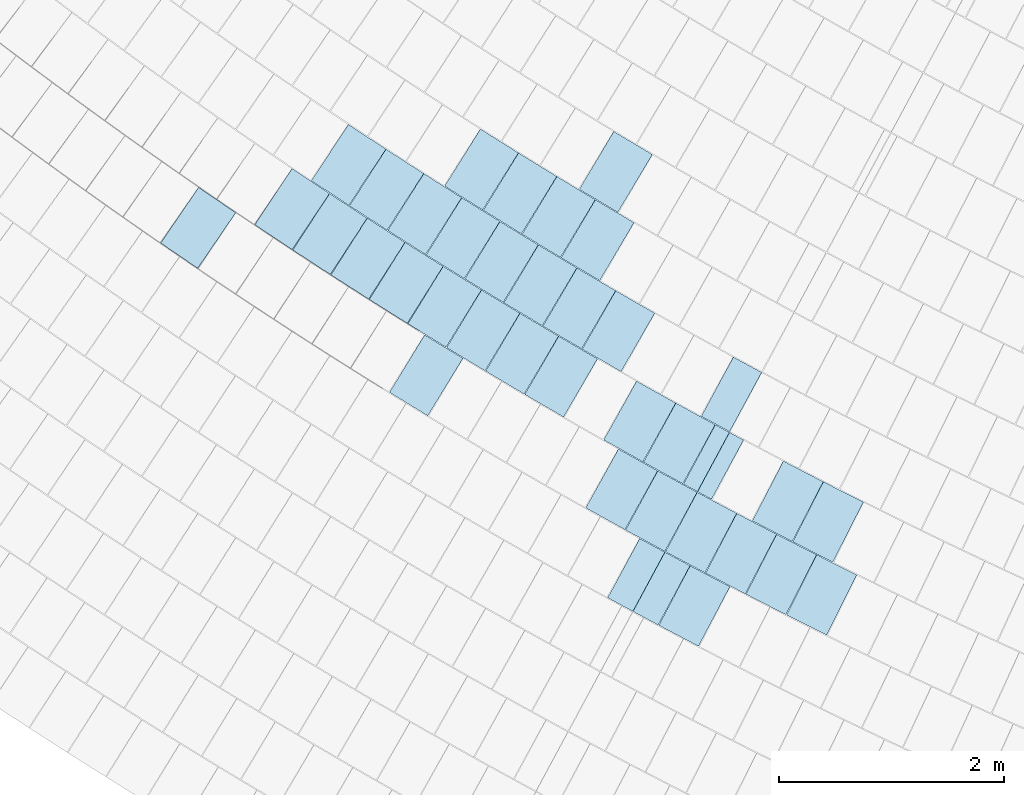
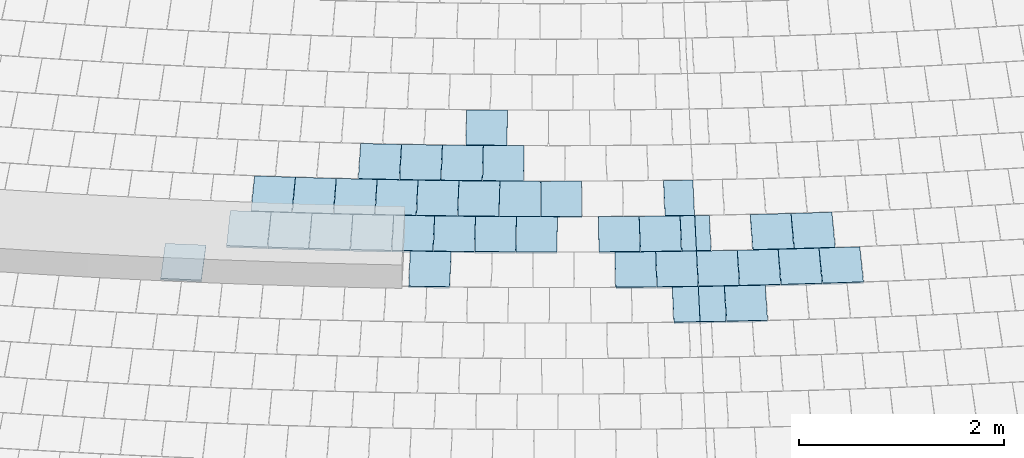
# One storey, part 105 of 438: 39 slabs.
"""IFC2X3 building model written with IfcOpenShell, lengths in millimetres."""

from ifc_helpers import new_model, entity, si_unit, converted_unit, derived_unit, direction, frame, origin, place, context, subcontext, project, spatial, polyline, outline, extrude, material, layer, layer_set, layer_usage, type_object, element, save


model = new_model("IFC2X3")

# Units and contexts
model_context = context("Model", 3, precision=0.01, world=origin(), true_north=direction((6.123031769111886e-17, 1.0)))
body_context = subcontext(model_context, "Body", "Model", "MODEL_VIEW")
ifc_project = project(units=[si_unit("LENGTHUNIT", "METRE", prefix="MILLI"), si_unit("AREAUNIT", "SQUARE_METRE"), si_unit("VOLUMEUNIT", "CUBIC_METRE"), converted_unit("PLANEANGLEUNIT", "DEGREE", entity("IfcRatioMeasure", 0.017453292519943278), si_unit("PLANEANGLEUNIT", "RADIAN"), dimensions=[0, 0, 0, 0, 0, 0, 0]), si_unit("MASSUNIT", "GRAM", prefix="KILO"), derived_unit("MASSDENSITYUNIT", [(si_unit("MASSUNIT", "GRAM", prefix="KILO"), 1), (si_unit("LENGTHUNIT", "METRE"), -3)]), derived_unit("MOMENTOFINERTIAUNIT", [(si_unit("LENGTHUNIT", "METRE"), 4)]), si_unit("TIMEUNIT", "SECOND"), si_unit("FREQUENCYUNIT", "HERTZ"), si_unit("THERMODYNAMICTEMPERATUREUNIT", "DEGREE_CELSIUS"), derived_unit("THERMALTRANSMITTANCEUNIT", [(si_unit("MASSUNIT", "GRAM", prefix="KILO"), 1), (si_unit("THERMODYNAMICTEMPERATUREUNIT", "KELVIN"), -1), (si_unit("TIMEUNIT", "SECOND"), -3)]), derived_unit("THERMALCONDUCTANCEUNIT", [(si_unit("MASSUNIT", "GRAM", prefix="KILO"), 1), (si_unit("LENGTHUNIT", "METRE"), 1), (si_unit("THERMODYNAMICTEMPERATUREUNIT", "KELVIN"), -1), (si_unit("TIMEUNIT", "SECOND"), -3)]), derived_unit("VOLUMETRICFLOWRATEUNIT", [(si_unit("LENGTHUNIT", "METRE"), 3), (si_unit("TIMEUNIT", "SECOND"), -1)]), derived_unit("MASSFLOWRATEUNIT", [(si_unit("MASSUNIT", "GRAM", prefix="KILO"), 1), (si_unit("TIMEUNIT", "SECOND"), -1)]), derived_unit("ROTATIONALFREQUENCYUNIT", [(si_unit("TIMEUNIT", "SECOND"), -1)]), si_unit("ELECTRICCURRENTUNIT", "AMPERE"), si_unit("ELECTRICVOLTAGEUNIT", "VOLT"), si_unit("POWERUNIT", "WATT"), converted_unit("FORCEUNIT", "KIP", entity("IfcRatioMeasure", 2.088543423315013e-05), si_unit("FORCEUNIT", "NEWTON"), dimensions=[1, 1, -2, 0, 0, 0, 0]), si_unit("ILLUMINANCEUNIT", "LUX"), si_unit("LUMINOUSFLUXUNIT", "LUMEN"), si_unit("LUMINOUSINTENSITYUNIT", "CANDELA"), derived_unit("USERDEFINED", [(si_unit("MASSUNIT", "GRAM", prefix="KILO"), -1), (si_unit("LENGTHUNIT", "METRE"), -2), (si_unit("TIMEUNIT", "SECOND"), 3), (si_unit("LUMINOUSFLUXUNIT", "LUMEN"), 1)]), derived_unit("USERDEFINED", [(si_unit("MASSUNIT", "GRAM", prefix="KILO"), 1), (si_unit("LENGTHUNIT", "METRE"), 3), (si_unit("TIMEUNIT", "SECOND"), -3), (si_unit("ELECTRICCURRENTUNIT", "AMPERE"), -2)]), derived_unit("USERDEFINED", [(si_unit("LENGTHUNIT", "METRE"), 2), (si_unit("TIMEUNIT", "SECOND"), -2)]), derived_unit("SOUNDPOWERUNIT", [(si_unit("MASSUNIT", "GRAM", prefix="KILO"), 1), (si_unit("LENGTHUNIT", "METRE"), 2), (si_unit("TIMEUNIT", "SECOND"), -3)]), derived_unit("SOUNDPRESSUREUNIT", [(si_unit("MASSUNIT", "GRAM", prefix="KILO"), 1), (si_unit("LENGTHUNIT", "METRE"), -1), (si_unit("TIMEUNIT", "SECOND"), -2)]), derived_unit("LINEARVELOCITYUNIT", [(si_unit("LENGTHUNIT", "METRE"), 1), (si_unit("TIMEUNIT", "SECOND"), -1)]), si_unit("PRESSUREUNIT", "PASCAL"), derived_unit("USERDEFINED", [(si_unit("LENGTHUNIT", "METRE"), -2), (si_unit("MASSUNIT", "GRAM", prefix="KILO"), 1), (si_unit("TIMEUNIT", "SECOND"), -2)]), derived_unit("LINEARFORCEUNIT", [(si_unit("MASSUNIT", "GRAM", prefix="KILO"), 1), (si_unit("LENGTHUNIT", "METRE"), 1), (si_unit("TIMEUNIT", "SECOND"), -2), (si_unit("LENGTHUNIT", "METRE"), -1)]), derived_unit("PLANARFORCEUNIT", [(si_unit("MASSUNIT", "GRAM", prefix="KILO"), 1), (si_unit("LENGTHUNIT", "METRE"), 1), (si_unit("TIMEUNIT", "SECOND"), -2), (si_unit("LENGTHUNIT", "METRE"), -2)]), derived_unit("SPECIFICHEATCAPACITYUNIT", [(si_unit("LENGTHUNIT", "METRE"), 2), (si_unit("TIMEUNIT", "SECOND"), -2), (si_unit("THERMODYNAMICTEMPERATUREUNIT", "KELVIN"), -1)]), derived_unit("VAPORPERMEABILITYUNIT", [(si_unit("TIMEUNIT", "SECOND"), 1), (si_unit("LENGTHUNIT", "METRE"), -1)]), derived_unit("DYNAMICVISCOSITYUNIT", [(si_unit("MASSUNIT", "GRAM", prefix="KILO"), 1), (si_unit("LENGTHUNIT", "METRE"), -1), (si_unit("TIMEUNIT", "SECOND"), -1)]), derived_unit("THERMALEXPANSIONCOEFFICIENTUNIT", [(si_unit("THERMODYNAMICTEMPERATUREUNIT", "KELVIN"), -1)])], contexts=[model_context])

# Site, building, storey
site_placement = place(None, frame((0.0, 0.0, 0.0), z_axis=(0.0, 0.0, 1.0), x_axis=(0.8191520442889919, 0.5735764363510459, 0.0)))
site = spatial("IfcSite", under=ifc_project, at=site_placement, Name="Default", CompositionType="ELEMENT")
building_placement = place(site_placement, origin())
building = spatial("IfcBuilding", under=site, at=building_placement, CompositionType="ELEMENT")
storey_placement = place(building_placement, origin())
storey = spatial("IfcBuildingStorey", under=building, at=storey_placement, Name="PLAN", CompositionType="ELEMENT", Elevation=0.0)

# Slabs
ifc_material = material(Name="Paint-01")
ifc_layer = layer(ifc_material, 20.00000000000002)
ifc_layer_set = layer_set([ifc_layer], Name="Floor:Slab-179:1000")
ifc_layer_usage = layer_usage(ifc_layer_set, "AXIS3", "POSITIVE", 0.0)
slab_type = type_object("IfcSlabType", Name="Floor:Slab-179:1000", PredefinedType="FLOOR", material=ifc_layer_set)
slab_1_placement = place(storey_placement, origin())
element("IfcSlab", 1, at=slab_1_placement, inside=storey, type_object=slab_type, material=ifc_layer_usage, Name="Floor:Slab-179:1000", ObjectType="Floor:Slab-179:1000", PredefinedType="FLOOR", context=body_context, shape_type="SweptSolid", body=[
    extrude(outline(polyline([(-200.0000013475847, -299.9999986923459), (200.00000453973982, -299.9999986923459), (200.00000134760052, 299.999998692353), (-200.0000045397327, 299.99999869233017), (-200.0000013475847, -299.9999986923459)])), frame((-81823.8987164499, -86573.97378062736, 520.0), z_axis=(0.0, 0.0, -1.0), x_axis=(0.4094609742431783, -0.9123276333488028, 0.0)), (0.0, 0.0, 1.0), 19.999999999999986),
])
slab_2_placement = place(storey_placement, origin())
element("IfcSlab", 2, at=slab_2_placement, inside=storey, type_object=slab_type, material=ifc_layer_usage, Name="Floor:Slab-179:1000", ObjectType="Floor:Slab-179:1000", PredefinedType="FLOOR", context=body_context, shape_type="SweptSolid", body=[
    extrude(outline(polyline([(-200.00000134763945, -299.9999986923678), (200.00000453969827, -299.9999986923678), (200.0000013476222, 299.99999869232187), (-200.00000453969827, 299.9999986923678), (-200.00000134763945, -299.9999986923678)])), frame((-82305.27612764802, -86978.17943150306, 520.0), z_axis=(0.0, 0.0, -1.0), x_axis=(0.4128557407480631, -0.9107964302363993, 0.0)), (0.0, 0.0, 1.0), 19.999999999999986),
])
slab_3_placement = place(storey_placement, origin())
element("IfcSlab", 3, at=slab_3_placement, inside=storey, type_object=slab_type, material=ifc_layer_usage, Name="Floor:Slab-179:1000", ObjectType="Floor:Slab-179:1000", PredefinedType="FLOOR", context=body_context, shape_type="SweptSolid", body=[
    extrude(outline(polyline([(-200.00000134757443, -299.9999986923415), (200.00000453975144, -299.9999986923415), (200.00000134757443, 299.9999986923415), (-200.0000045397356, 299.99999869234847), (-200.00000134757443, -299.9999986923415)])), frame((-82469.89561469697, -86610.75528619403, 520.0), z_axis=(0.0, 0.0, -1.0), x_axis=(0.40488472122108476, -0.9143677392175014, 0.0)), (0.0, 0.0, 1.0), 20.000000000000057),
])
slab_4_placement = place(storey_placement, origin())
element("IfcSlab", 4, at=slab_4_placement, inside=storey, type_object=slab_type, material=ifc_layer_usage, Name="Floor:Slab-179:1000", ObjectType="Floor:Slab-179:1000", PredefinedType="FLOOR", context=body_context, shape_type="SweptSolid", body=[
    extrude(outline(polyline([(-200.0000013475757, -299.9999986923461), (200.00000453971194, -299.9999986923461), (200.0000013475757, 299.9999986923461), (-200.00000453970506, 299.99999869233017), (-200.0000013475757, -299.9999986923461)])), frame((-82631.29958852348, -86241.907302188, 520.0), z_axis=(0.0, 0.0, -1.0), x_axis=(0.3968828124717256, -0.9178692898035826, 0.0)), (0.0, 0.0, 1.0), 20.000000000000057),
])
slab_5_placement = place(storey_placement, origin())
element("IfcSlab", 5, at=slab_5_placement, inside=storey, type_object=slab_type, material=ifc_layer_usage, Name="Floor:Slab-179:1000", ObjectType="Floor:Slab-179:1000", PredefinedType="FLOOR", context=body_context, shape_type="SweptSolid", body=[
    extrude(outline(polyline([(-200.0000013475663, -299.9999986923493), (200.00000453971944, -299.9999986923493), (200.0000013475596, 299.9999986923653), (-200.00000453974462, 299.9999986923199), (-200.0000013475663, -299.9999986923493)])), frame((-82789.47573539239, -85871.66361941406, 520.0), z_axis=(0.0, 0.0, -1.0), x_axis=(0.38885062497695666, -0.9213008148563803, 0.0)), (0.0, 0.0, 1.0), 20.000000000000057),
])
slab_6_placement = place(storey_placement, origin())
element("IfcSlab", 6, at=slab_6_placement, inside=storey, type_object=slab_type, material=ifc_layer_usage, Name="Floor:Slab-179:1000", ObjectType="Floor:Slab-179:1000", PredefinedType="FLOOR", context=body_context, shape_type="SweptSolid", body=[
    extrude(outline(polyline([(-200.00000134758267, -299.99999869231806), (200.0000045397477, -299.999998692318), (200.0000013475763, 299.99999869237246), (-200.00000453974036, 299.9999986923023), (-200.00000134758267, -299.99999869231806)])), frame((-82616.98485520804, -87747.44144949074, 520.0), z_axis=(0.0, 0.0, -1.0), x_axis=(0.4239796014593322, -0.9056717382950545, 0.0)), (0.0, 0.0, 1.0), 20.000000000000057),
])
slab_7_placement = place(storey_placement, origin())
element("IfcSlab", 7, at=slab_7_placement, inside=storey, type_object=slab_type, material=ifc_layer_usage, Name="Floor:Slab-179:1000", ObjectType="Floor:Slab-179:1000", PredefinedType="FLOOR", context=body_context, shape_type="SweptSolid", body=[
    extrude(outline(polyline([(-200.00000134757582, -299.9999986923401), (200.00000453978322, -299.9999986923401), (200.00000134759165, 299.99999869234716), (-200.0000045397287, 299.9999986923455), (-200.00000134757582, -299.9999986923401)])), frame((-82952.05634936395, -87015.31738914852, 520.0), z_axis=(0.0, 0.0, -1.0), x_axis=(0.40830242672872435, -0.9128467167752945, 0.0)), (0.0, 0.0, 1.0), 20.000000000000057),
])
slab_8_placement = place(storey_placement, origin())
element("IfcSlab", 8, at=slab_8_placement, inside=storey, type_object=slab_type, material=ifc_layer_usage, Name="Floor:Slab-179:1000", ObjectType="Floor:Slab-179:1000", PredefinedType="FLOOR", context=body_context, shape_type="SweptSolid", body=[
    extrude(outline(polyline([(-200.00000134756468, -299.9999986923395), (200.0000045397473, -299.99999869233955), (200.00000134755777, 299.9999986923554), (-200.00000453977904, 299.9999986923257), (-200.00000134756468, -299.9999986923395)])), frame((-83114.84620249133, -86647.11620595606, 520.0), z_axis=(0.0, 0.0, -1.0), x_axis=(0.40041803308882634, -0.9163325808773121, 0.0)), (0.0, 0.0, 1.0), 20.000000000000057),
])
slab_9_placement = place(storey_placement, origin())
element("IfcSlab", 9, at=slab_9_placement, inside=storey, type_object=slab_type, material=ifc_layer_usage, Name="Floor:Slab-179:1000", ObjectType="Floor:Slab-179:1000", PredefinedType="FLOOR", context=body_context, shape_type="SweptSolid", body=[
    extrude(outline(polyline([(-200.00000134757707, -299.999998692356), (200.00000453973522, -299.999998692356), (200.00000134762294, 299.99999869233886), (-200.00000453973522, 299.999998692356), (-200.00000134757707, -299.999998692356)])), frame((-82786.09845588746, -87382.10155617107, 520.0), z_axis=(0.0, 0.0, -1.0), x_axis=(0.416156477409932, -0.9092930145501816, 0.0)), (0.0, 0.0, 1.0), 19.99999999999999),
])
slab_10_placement = place(storey_placement, origin())
element("IfcSlab", 10, at=slab_10_placement, inside=storey, type_object=slab_type, material=ifc_layer_usage, Name="Floor:Slab-179:1000", ObjectType="Floor:Slab-179:1000", PredefinedType="FLOOR", context=body_context, shape_type="SweptSolid", body=[
    extrude(outline(polyline([(-200.00000134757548, -299.999998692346), (200.0000045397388, -299.99999869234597), (200.0000013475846, 299.9999986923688), (-200.00000453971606, 299.9999986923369), (-200.00000134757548, -299.999998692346)])), frame((-83274.45591755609, -86277.52536943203, 520.0), z_axis=(0.0, 0.0, -1.0), x_axis=(0.39250388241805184, -0.91975034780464, 0.0)), (0.0, 0.0, 1.0), 19.999999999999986),
])
slab_11_placement = place(storey_placement, origin())
element("IfcSlab", 11, at=slab_11_placement, inside=storey, type_object=slab_type, material=ifc_layer_usage, Name="Floor:Slab-179:1000", ObjectType="Floor:Slab-179:1000", PredefinedType="FLOOR", context=body_context, shape_type="SweptSolid", body=[
    extrude(outline(polyline([(-200.00000134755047, -299.9999986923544), (200.0000045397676, -299.9999986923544), (200.00000134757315, 299.99999869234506), (-200.00000453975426, 299.9999986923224), (-200.00000134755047, -299.9999986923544)])), frame((-83430.87363317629, -85906.57234568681, 520.0), z_axis=(0.0, 0.0, -1.0), x_axis=(0.384560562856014, -0.9230997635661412, 0.0)), (0.0, 0.0, 1.0), 20.000000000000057),
])
slab_12_placement = place(storey_placement, origin())
element("IfcSlab", 12, at=slab_12_placement, inside=storey, type_object=slab_type, material=ifc_layer_usage, Name="Floor:Slab-179:1000", ObjectType="Floor:Slab-179:1000", PredefinedType="FLOOR", context=body_context, shape_type="SweptSolid", body=[
    extrude(outline(polyline([(-200.00000134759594, -299.9999986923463), (200.0000045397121, -299.9999986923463), (200.00000134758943, 299.99999869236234), (-200.00000453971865, 299.99999869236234), (-200.00000134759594, -299.9999986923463)])), frame((-83584.08772518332, -85534.28470206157, 520.0), z_axis=(0.0, 0.0, -1.0), x_axis=(0.37658866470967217, -0.926380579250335, 0.0)), (0.0, 0.0, 1.0), 19.999999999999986),
])
slab_13_placement = place(storey_placement, origin())
element("IfcSlab", 13, at=slab_13_placement, inside=storey, type_object=slab_type, material=ifc_layer_usage, Name="Floor:Slab-179:1000", ObjectType="Floor:Slab-179:1000", PredefinedType="FLOOR", context=body_context, shape_type="SweptSolid", body=[
    extrude(outline(polyline([(-200.0000013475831, -299.99999869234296), (200.00000453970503, -299.99999869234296), (200.0000013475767, 299.99999869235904), (-200.00000453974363, 299.9999986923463), (-200.0000013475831, -299.99999869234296)])), frame((-83734.08680748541, -85160.69010507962, 520.0), z_axis=(0.0, 0.0, -1.0), x_axis=(0.36858878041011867, -0.9295925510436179, 0.0)), (0.0, 0.0, 1.0), 20.000000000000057),
])
slab_14_placement = place(storey_placement, origin())
element("IfcSlab", 14, at=slab_14_placement, inside=storey, type_object=slab_type, material=ifc_layer_usage, Name="Floor:Slab-179:1000", ObjectType="Floor:Slab-179:1000", PredefinedType="FLOOR", context=body_context, shape_type="SweptSolid", body=[
    extrude(outline(polyline([(-300.0, -143.68801425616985), (299.99999792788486, -143.68801425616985), (300.0, 143.68801266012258), (-299.9999979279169, 143.68801585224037), (-300.0, -143.68801425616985)])), frame((-82116.02261911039, -88784.15879950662, 520.0), z_axis=(0.0, 0.0, -1.0), x_axis=(0.8944051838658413, 0.4472576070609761, 0.0)), (0.0, 0.0, 1.0), 20.000000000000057),
])
slab_15_placement = place(storey_placement, origin())
element("IfcSlab", 15, at=slab_15_placement, inside=storey, type_object=slab_type, material=ifc_layer_usage, Name="Floor:Slab-179:1000", ObjectType="Floor:Slab-179:1000", PredefinedType="FLOOR", context=body_context, shape_type="SweptSolid", body=[
    extrude(outline(polyline([(-200.0000013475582, -299.99999869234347), (200.00000453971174, -299.9999986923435), (200.0000013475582, 299.99999869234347), (-200.0000045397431, 299.99999869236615), (-200.0000013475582, -299.99999869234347)])), frame((-82250.94885660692, -89850.46805788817, 520.0), z_axis=(0.0, 0.0, -1.0), x_axis=(0.46301393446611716, -0.8863510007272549, 0.0)), (0.0, 0.0, 1.0), 19.999999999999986),
])
slab_16_placement = place(storey_placement, origin())
element("IfcSlab", 16, at=slab_16_placement, inside=storey, type_object=slab_type, material=ifc_layer_usage, Name="Floor:Slab-179:1000", ObjectType="Floor:Slab-179:1000", PredefinedType="FLOOR", context=body_context, shape_type="SweptSolid", body=[
    extrude(outline(polyline([(-200.00000134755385, -299.99999869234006), (200.00000453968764, -299.99999869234), (200.0000013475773, 299.99999869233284), (-200.00000453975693, 299.9999986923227), (-200.00000134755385, -299.99999869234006)])), frame((-82063.0464962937, -90206.47174805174, 520.0), z_axis=(0.0, 0.0, -1.0), x_axis=(0.4705396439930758, -0.8823788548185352, 0.0)), (0.0, 0.0, 1.0), 20.000000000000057),
])
slab_17_placement = place(storey_placement, origin())
element("IfcSlab", 17, at=slab_17_placement, inside=storey, type_object=slab_type, material=ifc_layer_usage, Name="Floor:Slab-179:1000", ObjectType="Floor:Slab-179:1000", PredefinedType="FLOOR", context=body_context, shape_type="SweptSolid", body=[
    extrude(outline(polyline([(-71.27713909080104, -299.9999986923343), (71.27714068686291, -299.9999986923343), (71.27713749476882, 299.9999986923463), (-71.277139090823, 299.9999986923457), (-71.27713909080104, -299.9999986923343)])), frame((-82559.98131484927, -89248.81976052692, 520.0), z_axis=(0.0, 0.0, -1.0), x_axis=(0.44786247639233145, -0.8941024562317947, 0.0)), (0.0, 0.0, 1.0), 20.000000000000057),
])
slab_18_placement = place(storey_placement, origin())
element("IfcSlab", 18, at=slab_18_placement, inside=storey, type_object=slab_type, material=ifc_layer_usage, Name="Floor:Slab-179:1000", ObjectType="Floor:Slab-179:1000", PredefinedType="FLOOR", context=body_context, shape_type="SweptSolid", body=[
    extrude(outline(polyline([(-200.0000013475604, -299.9999986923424), (200.00000453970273, -299.99999869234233), (200.00000134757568, 299.9999986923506), (-200.00000453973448, 299.9999986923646), (-200.0000013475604, -299.9999986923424)])), frame((-82482.14144738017, -90705.0157686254, 520.0), z_axis=(0.0, 0.0, -1.0), x_axis=(0.4750035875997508, -0.8799838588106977, 0.0)), (0.0, 0.0, 1.0), 19.999999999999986),
])
slab_19_placement = place(storey_placement, origin())
element("IfcSlab", 19, at=slab_19_placement, inside=storey, type_object=slab_type, material=ifc_layer_usage, Name="Floor:Slab-179:1000", ObjectType="Floor:Slab-179:1000", PredefinedType="FLOOR", context=body_context, shape_type="SweptSolid", body=[
    extrude(outline(polyline([(-200.0000013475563, -299.9999986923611), (200.00000453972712, -299.99999869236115), (200.00000134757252, 299.9999986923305), (-200.00000453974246, 299.999998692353), (-200.0000013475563, -299.9999986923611)])), frame((-82671.84880098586, -90350.00731582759, 520.0), z_axis=(0.0, 0.0, -1.0), x_axis=(0.46759368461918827, -0.883943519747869, 0.0)), (0.0, 0.0, 1.0), 19.999999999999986),
])
slab_20_placement = place(storey_placement, origin())
element("IfcSlab", 20, at=slab_20_placement, inside=storey, type_object=slab_type, material=ifc_layer_usage, Name="Floor:Slab-179:1000", ObjectType="Floor:Slab-179:1000", PredefinedType="FLOOR", context=body_context, shape_type="SweptSolid", body=[
    extrude(outline(polyline([(-200.00000134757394, -299.9999986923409), (200.00000453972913, -299.99999869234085), (200.0000013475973, 299.99999869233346), (-200.00000453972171, 299.9999986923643), (-200.00000134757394, -299.9999986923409)])), frame((-82858.56687417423, -89993.41757576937, 520.0), z_axis=(0.0, 0.0, -1.0), x_axis=(0.46015077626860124, -0.8878407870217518, 0.0)), (0.0, 0.0, 1.0), 20.000000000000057),
])
slab_21_placement = place(storey_placement, origin())
element("IfcSlab", 21, at=slab_21_placement, inside=storey, type_object=slab_type, material=ifc_layer_usage, Name="Floor:Slab-179:1000", ObjectType="Floor:Slab-179:1000", PredefinedType="FLOOR", context=body_context, shape_type="SweptSolid", body=[
    extrude(outline(polyline([(-199.5897597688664, -299.99999869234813), (199.58976136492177, -299.99999869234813), (199.58975817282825, 299.99999869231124), (-199.58975976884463, 299.9999986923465), (-199.5897597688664, -299.99999869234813)])), frame((-83042.09678035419, -89635.63752228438, 520.0), z_axis=(0.0, 0.0, -1.0), x_axis=(0.4526753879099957, -0.8916753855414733, 0.0)), (0.0, 0.0, 1.0), 19.99999999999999),
])
slab_22_placement = place(storey_placement, origin())
element("IfcSlab", 22, at=slab_22_placement, inside=storey, type_object=slab_type, material=ifc_layer_usage, Name="Floor:Slab-179:1000", ObjectType="Floor:Slab-179:1000", PredefinedType="FLOOR", context=body_context, shape_type="SweptSolid", body=[
    extrude(outline(polyline([(-200.00000134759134, -299.99999869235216), (200.00000453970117, -299.9999986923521), (200.0000013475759, 299.9999986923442), (-200.000004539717, 299.9999986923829), (-200.00000134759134, -299.99999869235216)])), frame((-83465.74174511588, -90136.16473052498, 520.0), z_axis=(0.0, 0.0, -1.0), x_axis=(0.4573548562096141, -0.8892842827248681, 0.0)), (0.0, 0.0, 1.0), 20.000000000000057),
])
slab_23_placement = place(storey_placement, origin())
element("IfcSlab", 23, at=slab_23_placement, inside=storey, type_object=slab_type, material=ifc_layer_usage, Name="Floor:Slab-179:1000", ObjectType="Floor:Slab-179:1000", PredefinedType="FLOOR", context=body_context, shape_type="SweptSolid", body=[
    extrude(outline(polyline([(-127.54038940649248, -299.9999986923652), (127.54039100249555, -299.9999986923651), (127.54038781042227, 299.9999986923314), (-127.54038940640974, 299.99999869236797), (-127.54038940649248, -299.9999986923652)])), frame((-83615.73008009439, -89842.19021162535, 520.0), z_axis=(0.0, 0.0, -1.0), x_axis=(0.4499615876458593, -0.8930479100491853, 0.0)), (0.0, 0.0, 1.0), 20.000000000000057),
])
slab_24_placement = place(storey_placement, origin())
element("IfcSlab", 24, at=slab_24_placement, inside=storey, type_object=slab_type, material=ifc_layer_usage, Name="Floor:Slab-179:1000", ObjectType="Floor:Slab-179:1000", PredefinedType="FLOOR", context=body_context, shape_type="SweptSolid", body=[
    extrude(outline(polyline([(-200.00000134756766, -299.9999986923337), (200.00000453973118, -299.9999986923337), (200.00000134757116, 299.99999869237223), (-200.00000453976, 299.99999869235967), (-200.00000134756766, -299.9999986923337)])), frame((-84371.10228969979, -85194.32461210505, 520.0), z_axis=(0.0, 0.0, -1.0), x_axis=(0.3645857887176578, -0.9311698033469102, 0.0)), (0.0, 0.0, 1.0), 20.000000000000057),
])
slab_25_placement = place(storey_placement, origin())
element("IfcSlab", 25, at=slab_25_placement, inside=storey, type_object=slab_type, material=ifc_layer_usage, Name="Floor:Slab-179:1000", ObjectType="Floor:Slab-179:1000", PredefinedType="FLOOR", context=body_context, shape_type="SweptSolid", body=[
    extrude(outline(polyline([(-200.000004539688, -299.99999869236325), (200.00000134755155, -299.99999869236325), (200.00000453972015, 299.99999869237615), (-200.0000013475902, 299.99999869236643), (-200.000004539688, -299.99999869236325)])), frame((-84222.74498556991, -85568.53850112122, 520.0), z_axis=(0.0, 0.0, -1.0), x_axis=(0.37249644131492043, -0.9280336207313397, 0.0)), (0.0, 0.0, 1.0), 20.000000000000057),
])
slab_26_placement = place(storey_placement, origin())
element("IfcSlab", 26, at=slab_26_placement, inside=storey, type_object=slab_type, material=ifc_layer_usage, Name="Floor:Slab-179:1000", ObjectType="Floor:Slab-179:1000", PredefinedType="FLOOR", context=body_context, shape_type="SweptSolid", body=[
    extrude(outline(polyline([(-200.00000453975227, -299.99999869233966), (200.00000134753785, -299.99999869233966), (200.00000453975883, 299.99999869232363), (-200.00000134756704, 299.9999986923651), (-200.00000453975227, -299.99999869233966)])), frame((-84071.20865035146, -85941.47638271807, 520.0), z_axis=(0.0, 0.0, -1.0), x_axis=(0.38038012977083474, -0.9248302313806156, 0.0)), (0.0, 0.0, 1.0), 19.99999999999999),
])
slab_27_placement = place(storey_placement, origin())
element("IfcSlab", 27, at=slab_27_placement, inside=storey, type_object=slab_type, material=ifc_layer_usage, Name="Floor:Slab-179:1000", ObjectType="Floor:Slab-179:1000", PredefinedType="FLOOR", context=body_context, shape_type="SweptSolid", body=[
    extrude(outline(polyline([(-200.0000045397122, -299.99999869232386), (200.00000134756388, -299.9999986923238), (200.00000453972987, 299.99999869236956), (-200.00000134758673, 299.9999986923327), (-200.0000045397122, -299.99999869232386)])), frame((-83597.63633831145, -87052.3643965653, 520.0), z_axis=(0.0, 0.0, -1.0), x_axis=(0.4038636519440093, -0.9148191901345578, 0.0)), (0.0, 0.0, 1.0), 20.000000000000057),
])
slab_28_placement = place(storey_placement, origin())
element("IfcSlab", 28, at=slab_28_placement, inside=storey, type_object=slab_type, material=ifc_layer_usage, Name="Floor:Slab-179:1000", ObjectType="Floor:Slab-179:1000", PredefinedType="FLOOR", context=body_context, shape_type="SweptSolid", body=[
    extrude(outline(polyline([(-200.00000453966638, -299.9999986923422), (200.00000134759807, -299.99999869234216), (200.00000453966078, 299.9999986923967), (-200.00000134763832, 299.999998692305), (-200.00000453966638, -299.9999986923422)])), frame((-83433.49590268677, -87419.92914162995, 520.0), z_axis=(0.0, 0.0, -1.0), x_axis=(0.411633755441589, -0.9113493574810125, 0.0)), (0.0, 0.0, 1.0), 20.000000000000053),
])
slab_29_placement = place(storey_placement, origin())
element("IfcSlab", 29, at=slab_29_placement, inside=storey, type_object=slab_type, material=ifc_layer_usage, Name="Floor:Slab-179:1000", ObjectType="Floor:Slab-179:1000", PredefinedType="FLOOR", context=body_context, shape_type="SweptSolid", body=[
    extrude(outline(polyline([(-200.00000453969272, -299.99999869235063), (200.00000134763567, -299.99999869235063), (200.00000453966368, 299.99999869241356), (-200.00000134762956, 299.99999869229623), (-200.00000453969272, -299.99999869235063)])), frame((-83266.23358885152, -87786.0838122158, 520.0), z_axis=(0.0, 0.0, -1.0), x_axis=(0.41937405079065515, -0.9078135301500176, 0.0)), (0.0, 0.0, 1.0), 19.99999999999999),
])
slab_30_placement = place(storey_placement, origin())
element("IfcSlab", 30, at=slab_30_placement, inside=storey, type_object=slab_type, material=ifc_layer_usage, Name="Floor:Slab-179:1000", ObjectType="Floor:Slab-179:1000", PredefinedType="FLOOR", context=body_context, shape_type="SweptSolid", body=[
    extrude(outline(polyline([(-200.00000453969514, -299.99999869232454), (200.00000134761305, -299.99999869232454), (200.00000453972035, 299.999998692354), (-200.0000013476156, 299.9999986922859), (-200.00000453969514, -299.99999869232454)])), frame((-83916.50425743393, -86313.11125087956, 520.0), z_axis=(0.0, 0.0, -1.0), x_axis=(0.3882362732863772, -0.9215598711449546, 0.0)), (0.0, 0.0, 1.0), 20.000000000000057),
])
slab_31_placement = place(storey_placement, origin())
element("IfcSlab", 31, at=slab_31_placement, inside=storey, type_object=slab_type, material=ifc_layer_usage, Name="Floor:Slab-179:1000", ObjectType="Floor:Slab-179:1000", PredefinedType="FLOOR", context=body_context, shape_type="SweptSolid", body=[
    extrude(outline(polyline([(-200.00000453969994, -299.99999869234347), (200.00000134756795, -299.99999869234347), (200.00000453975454, 299.99999869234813), (-200.0000013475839, 299.9999986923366), (-200.00000453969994, -299.99999869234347)])), frame((-83758.64300961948, -86683.41619394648, 520.0), z_axis=(0.0, 0.0, -1.0), x_axis=(0.39606430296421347, -0.9182227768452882, 0.0)), (0.0, 0.0, 1.0), 20.000000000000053),
])
slab_32_placement = place(storey_placement, origin())
element("IfcSlab", 32, at=slab_32_placement, inside=storey, type_object=slab_type, material=ifc_layer_usage, Name="Floor:Slab-179:1000", ObjectType="Floor:Slab-179:1000", PredefinedType="FLOOR", context=body_context, shape_type="SweptSolid", body=[
    extrude(outline(polyline([(-200.00000453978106, -299.99999869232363), (200.0000013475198, -299.99999869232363), (200.00000453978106, 299.99999869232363), (-200.00000134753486, 299.9999986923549), (-200.00000453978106, -299.99999869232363)])), frame((-82922.3920004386, -88514.05697472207, 520.0), z_axis=(0.0, 0.0, -1.0), x_axis=(0.43476297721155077, -0.9005449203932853, 0.0)), (0.0, 0.0, 1.0), 19.99999999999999),
])
slab_33_placement = place(storey_placement, origin())
element("IfcSlab", 33, at=slab_33_placement, inside=storey, type_object=slab_type, material=ifc_layer_usage, Name="Floor:Slab-179:1000", ObjectType="Floor:Slab-179:1000", PredefinedType="FLOOR", context=body_context, shape_type="SweptSolid", body=[
    extrude(outline(polyline([(-200.00000134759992, -299.99999869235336), (200.00000453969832, -299.9999986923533), (200.00000134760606, 299.9999986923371), (-200.00000453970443, 299.99999869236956), (-200.00000134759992, -299.99999869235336)])), frame((-85151.04018440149, -84851.3077707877, 520.0), z_axis=(0.0, 0.0, -1.0), x_axis=(0.3528222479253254, -0.9356903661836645, 0.0)), (0.0, 0.0, 1.0), 20.000000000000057),
])
slab_34_placement = place(storey_placement, origin())
element("IfcSlab", 34, at=slab_34_placement, inside=storey, type_object=slab_type, material=ifc_layer_usage, Name="Floor:Slab-179:1000", ObjectType="Floor:Slab-179:1000", PredefinedType="FLOOR", context=body_context, shape_type="SweptSolid", body=[
    extrude(outline(polyline([(-200.00000453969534, -299.9999986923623), (200.000001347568, -299.9999986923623), (200.00000453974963, 299.99999869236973), (-200.00000134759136, 299.99999869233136), (-200.00000453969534, -299.9999986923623)])), frame((-82745.83762489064, -88875.82275101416, 520.0), z_axis=(0.0, 0.0, -1.0), x_axis=(0.44241049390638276, -0.8968126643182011, 0.0)), (0.0, 0.0, 1.0), 20.000000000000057),
])
slab_35_placement = place(storey_placement, origin())
element("IfcSlab", 35, at=slab_35_placement, inside=storey, type_object=slab_type, material=ifc_layer_usage, Name="Floor:Slab-179:1000", ObjectType="Floor:Slab-179:1000", PredefinedType="FLOOR", context=body_context, shape_type="SweptSolid", body=[
    extrude(outline(polyline([(-200.000004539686, -299.99999869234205), (200.00000134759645, -299.99999869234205), (200.00000453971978, 299.99999869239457), (-200.0000013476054, 299.9999986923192), (-200.000004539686, -299.99999869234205)])), frame((-84242.35171360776, -87088.67235484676, 520.0), z_axis=(0.0, 0.0, -1.0), x_axis=(0.3995215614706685, -0.9167237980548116, 0.0)), (0.0, 0.0, 1.0), 20.000000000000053),
])
slab_36_placement = place(storey_placement, origin())
element("IfcSlab", 36, at=slab_36_placement, inside=storey, type_object=slab_type, material=ifc_layer_usage, Name="Floor:Slab-179:1000", ObjectType="Floor:Slab-179:1000", PredefinedType="FLOOR", context=body_context, shape_type="SweptSolid", body=[
    extrude(outline(polyline([(-200.00000453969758, -299.99999869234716), (200.00000134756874, -299.99999869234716), (200.00000453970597, 299.999998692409), (-200.00000134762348, 299.99999869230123), (-200.00000453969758, -299.99999869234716)])), frame((-83399.76861369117, -88916.23329060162, 520.0), z_axis=(0.0, 0.0, -1.0), x_axis=(0.4376672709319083, -0.899137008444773, 0.0)), (0.0, 0.0, 1.0), 20.000000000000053),
])
slab_37_placement = place(storey_placement, origin())
element("IfcSlab", 37, at=slab_37_placement, inside=storey, type_object=slab_type, material=ifc_layer_usage, Name="Floor:Slab-179:1000", ObjectType="Floor:Slab-179:1000", PredefinedType="FLOOR", context=body_context, shape_type="SweptSolid", body=[
    extrude(outline(polyline([(-199.5897613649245, -299.999998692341), (199.58975976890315, -299.999998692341), (199.58975976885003, 299.99999869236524), (-199.5897581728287, 299.99999869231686), (-199.5897613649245, -299.999998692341)])), frame((-83222.26399059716, -89277.04058253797, 520.0), z_axis=(0.0, 0.0, -1.0), x_axis=(0.4452058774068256, -0.895428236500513, 0.0)), (0.0, 0.0, 1.0), 20.000000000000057),
])
slab_38_placement = place(storey_placement, origin())
element("IfcSlab", 38, at=slab_38_placement, inside=storey, type_object=slab_type, material=ifc_layer_usage, Name="Floor:Slab-179:1000", ObjectType="Floor:Slab-179:1000", PredefinedType="FLOOR", context=body_context, shape_type="SweptSolid", body=[
    extrude(outline(polyline([(-71.27714068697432, -299.9999986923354), (71.2771390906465, -299.99999869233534), (71.27713909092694, 299.99999869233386), (-71.27713749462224, 299.99999869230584), (-71.27714068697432, -299.9999986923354)])), frame((-82624.13979954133, -89121.12151711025, 520.0), z_axis=(0.0, 0.0, -1.0), x_axis=(0.45002597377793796, -0.8930154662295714, 0.0)), (0.0, 0.0, 1.0), 20.000000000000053),
])
slab_39_placement = place(storey_placement, origin())
element("IfcSlab", 39, at=slab_39_placement, inside=storey, type_object=slab_type, material=ifc_layer_usage, Name="Floor:Slab-179:1000", ObjectType="Floor:Slab-179:1000", PredefinedType="FLOOR", context=body_context, shape_type="SweptSolid", body=[
    extrude(outline(polyline([(-127.54039100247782, -299.9999986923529), (127.54038940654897, -299.9999986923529), (127.54038940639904, 299.99999869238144), (-127.5403878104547, 299.99999869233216), (-127.54039100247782, -299.9999986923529)])), frame((-83730.38514232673, -89613.98578759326, 520.0), z_axis=(0.0, 0.0, -1.0), x_axis=(0.4479269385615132, -0.8940701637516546, 0.0)), (0.0, 0.0, 1.0), 19.99999999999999),
])

save(model, "model.ifc")
